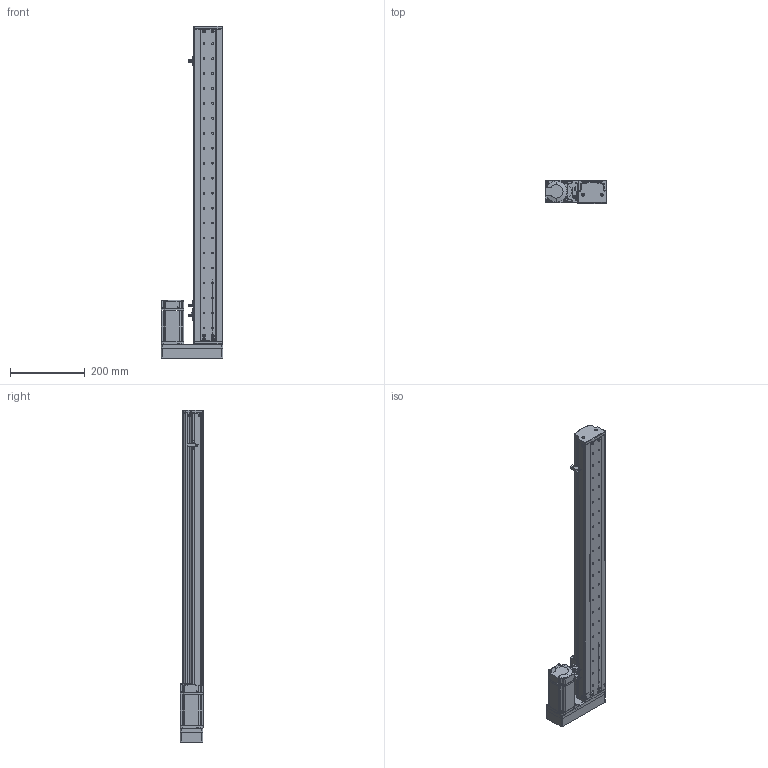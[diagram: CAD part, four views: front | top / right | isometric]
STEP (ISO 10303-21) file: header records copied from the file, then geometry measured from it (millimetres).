
FILE_DESCRIPTION (( 'STEP AP214' ), '1' );
FILE_NAME ('KSD75S-S680-MR-CM.STEP', '2019-10-18T07:24:25', ( '微软用户' ), ( '微软中国' ), 'SwSTEP 2.0', 'SolidWorks 2014', '' );
FILE_SCHEMA (( 'AUTOMOTIVE_DESIGN' ));
Length unit declared in the file: millimetre
Products named in the file (13): 680俴最; KSD75S-S680-MR-CM; MHMD042G1CA_2_03; 75宽模组保护罩左右折; 75宽马达安装板连板左右折丝杆; 覜茼え100遵圉猾敕; U倰嫖萇EEㄜSX672; 綴傷啣 ; ヶ傷啣; 75裔啣-680俴最; 75遵耀郪耜啣-680俴最; 75遵賑雄釱; MGW15H賑寢680俴最 
Assembly tree (15 placements, depth 3):
  KSD75S-S680-MR-CM
    MGW15H賑寢680俴最 
      680俴最
    75遵賑雄釱
    75遵耀郪耜啣-680俴最  x2
    75裔啣-680俴最
    ヶ傷啣
    綴傷啣 
    U倰嫖萇EEㄜSX672  x3
    覜茼え100遵圉猾敕
    75宽马达安装板连板左右折丝杆
    75宽模组保护罩左右折
    MHMD042G1CA_2_03
Bounding box: 165 x 63 x 887.5 mm (x, y, z)
Volume: 1095604.6 mm3; surface area: 690847.8 mm2
Topology: 13 solids, 14 shells, 1533 faces, 4306 edges, 2813 vertices
Faces by surface type: cylinder 747, plane 639, cone 129, bspline 18
Entity records: 49074 total; most frequent: CARTESIAN_POINT 9268, DIRECTION 7424, ORIENTED_EDGE 6892, EDGE_CURVE 3517, AXIS2_PLACEMENT_3D 2748, VERTEX_POINT 2331, LINE 1928, VECTOR 1928
